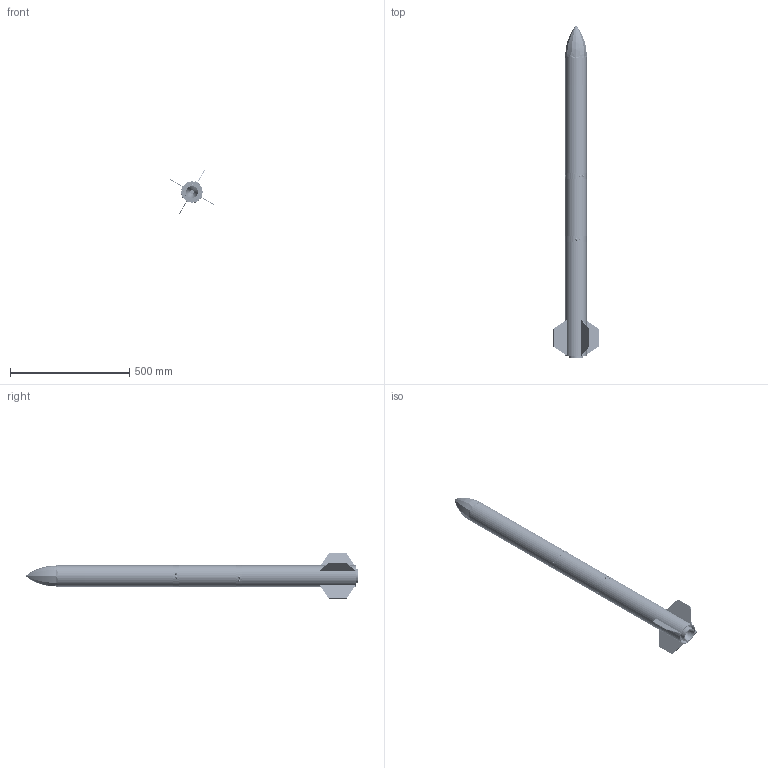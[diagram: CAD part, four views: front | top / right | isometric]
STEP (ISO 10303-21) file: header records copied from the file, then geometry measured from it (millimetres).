
FILE_DESCRIPTION (( 'STEP AP214' ), '1' );
FILE_NAME ('cohete.STEP', '2026-11-17T16:41:51', ( '' ), ( '' ), 'SwSTEP 2.0', 'SolidWorks 2025', '' );
FILE_SCHEMA (( 'AUTOMOTIVE_DESIGN' ));
Length unit declared in the file: millimetre
Products named in the file (41): Aleta_Predeterminado; socket head cap screw_am_B18.3.1M - 8 x 1.25 x 25 Hex SHCS -- 25NHX; Ubolt_Predeterminado; tayau_nose_v4_male_Predeterminado; batterys_holder_Predeterminado; eagle_punzon_Predeterminado; PCB1_IGNIS_v2 (1) SOLIDO; Hembra_Predeterminado; tubo_motor_Predeterminado; fuselaje_motor_Predeterminado; eagle_Predeterminado; fuselaje_avionica_Predeterminado; cohete; batterys_holder_battery_holder_cople_intern; batterys_holder_tapa_Predeterminado; hex flange nut_am_B18.2.2.4M - Hex flange nut, M5 x 0.8 --N; limit_switch_Predeterminado; cople_recuperacion_v3_Predeterminado; tayau_nose_v4_Predeterminado; avionics_tower_Predeterminado; Computadora de Vuelo Max_Default<As Machined>; fuselaje_recuperacion_Predeterminado; eagle_combustion_chamber_Predeterminado; CenterRing_v3_Predeterminado; socket head cap screw_am_B18.3.1M - 3 x 0.5 x 16 Hex SHCS -- 16NHX; male_bulkhead_Predeterminado; barra_roscada_m5_98942A225; Bell Nozzle Grafito_Predeterminado; eagle_base_v2_Predeterminado; Bell Nozzle Aluminio_Predeterminado; hex nut style 1_am_B18.2.4.1M - Hex nut, Style 1,  M3 x 0.5 --D-N; eagle_tapa_Predeterminado; Bell Nozzle.SLDPRT_Predeterminado; co2_cartridge_Predeterminado; TAPON MOTOR; Motor_Predeterminado; socket button head cap screw_am_B18.3.4M - 5 x 0.8 x 10 SBHCS --N; tayau_nose_v4_female_Predeterminado
Assembly tree (71 placements, depth 5):
  cohete
    fuselaje_motor_Predeterminado
      Motor_Predeterminado
        Bell Nozzle.SLDPRT_Predeterminado
          Bell Nozzle Aluminio_Predeterminado
          Bell Nozzle Grafito_Predeterminado
        tubo_motor_Predeterminado
        TAPON MOTOR
        socket button head cap screw_am_B18.3.4M - 5 x 0.8 x 10 SBHCS --N  x6
      male_bulkhead_Predeterminado
      fuselaje_motor_Predeterminado
      CenterRing_v3_Predeterminado  x2
      Aleta_Predeterminado  x4
      socket head cap screw_am_B18.3.1M - 8 x 1.25 x 25 Hex SHCS -- 25NHX
    fuselaje_avionica_Predeterminado
      fuselaje_avionica_Predeterminado
      Hembra_Predeterminado  x2
    fuselaje_recuperacion_Predeterminado
      cople_recuperacion_v3_Predeterminado
      eagle_Predeterminado
        eagle_base_v2_Predeterminado
        eagle_tapa_Predeterminado
        eagle_combustion_chamber_Predeterminado
        eagle_punzon_Predeterminado
        co2_cartridge_Predeterminado
      fuselaje_recuperacion_Predeterminado
      tayau_nose_v4_Predeterminado
        tayau_nose_v4_female_Predeterminado
        tayau_nose_v4_male_Predeterminado
      Ubolt_Predeterminado
      hex nut style 1_am_B18.2.4.1M - Hex nut, Style 1,  M3 x 0.5 --D-N  x4
      socket head cap screw_am_B18.3.1M - 3 x 0.5 x 16 Hex SHCS -- 16NHX  x4
    avionics_tower_Predeterminado
      batterys_holder_Predeterminado
        batterys_holder_battery_holder_cople_intern
        batterys_holder_tapa_Predeterminado
      Computadora de Vuelo Max_Default<As Machined>
      PCB1_IGNIS_v2 (1) SOLIDO
      limit_switch_Predeterminado  x2
      barra_roscada_m5_98942A225  x2
      hex flange nut_am_B18.2.2.4M - Hex flange nut, M5 x 0.8 --N  x2
    socket button head cap screw_am_B18.3.4M - 5 x 0.8 x 10 SBHCS --N  x12
Bounding box: 190.74 x 1393.67 x 190.74 mm (x, y, z)
Volume: 1983953.6 mm3; surface area: 1355457.7 mm2
Topology: 939 solids, 939 shells, 19851 faces, 51295 edges, 32948 vertices
Faces by surface type: plane 10283, cylinder 4924, bspline 3691, sphere 568, cone 289, torus 96
Entity records: 625160 total; most frequent: CARTESIAN_POINT 205575, ORIENTED_EDGE 92738, DIRECTION 70062, EDGE_CURVE 46369, VERTEX_POINT 30160, LINE 27654, VECTOR 27654, AXIS2_PLACEMENT_3D 21204
